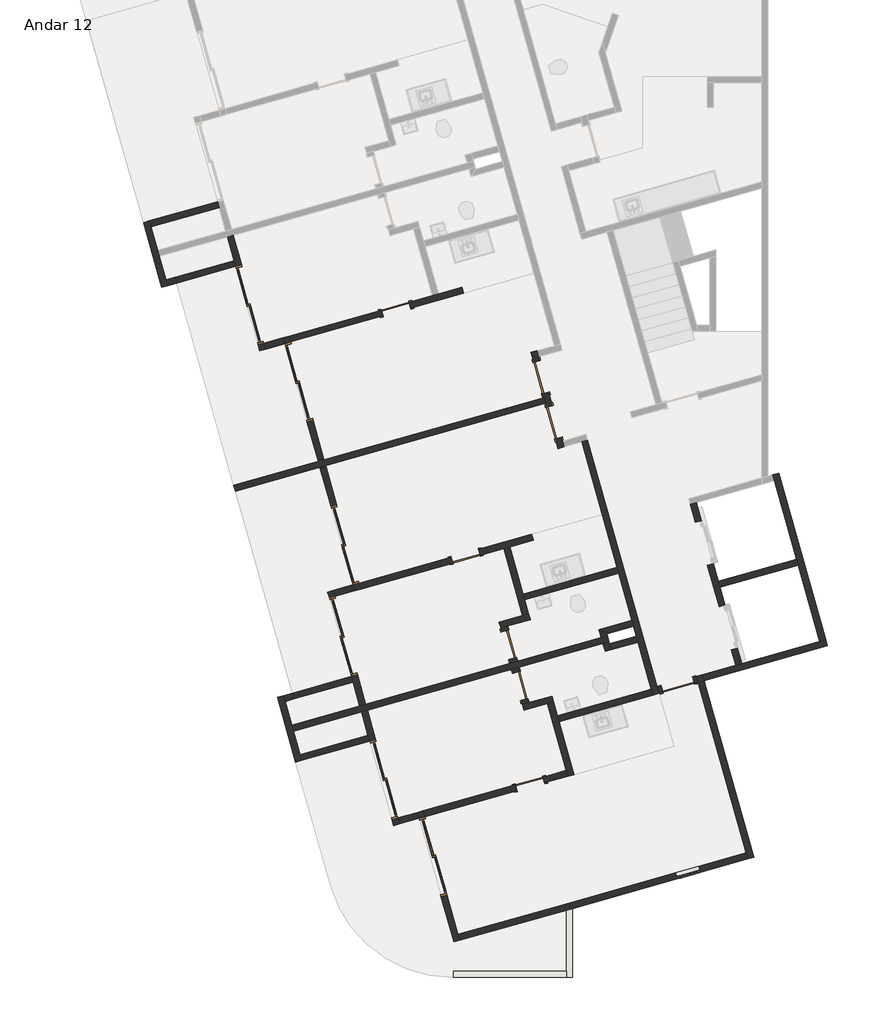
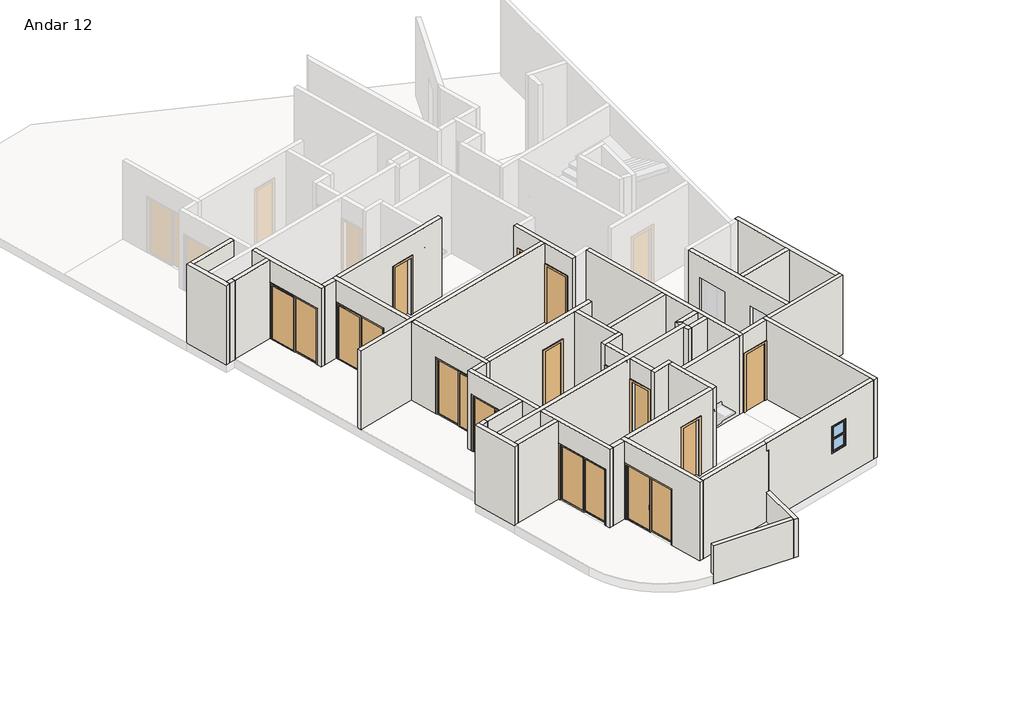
# One storey, part 1 of 3: 46 walls, 14 doors, 1 window.
"""IFC4 building model written with IfcOpenShell, lengths in millimetres."""

from ifc_helpers import new_model, si_unit, frame, origin, place, context, project, spatial, polyline, outline, extrude, faceted_brep, transform, mapped, element, save
from components import p2_80cm_9d4be4ef, p2_80cm_083652d6, p3_70cm_ef4d15e3, p3_70cm_0a698c7c, p4_correr_200cm_eaaa0877, p4_correr_200cm_830b8f20, bx_60cm_cef95a5c

model = new_model("IFC4")

# Units and contexts
model_context = context("Model", 3, world=origin())
ifc_project = project(units=[si_unit("LENGTHUNIT", "METRE", prefix="MILLI")], contexts=[model_context])

# Site, building, storey
site = spatial("IfcSite", under=ifc_project)
building = spatial("IfcBuilding", under=site)
storey = spatial("IfcBuildingStorey", under=building, Name="Andar 12", Elevation=85550.0)

# Doors
placement = place(None, origin())
p2_80cm_shape = p2_80cm_9d4be4ef(model_context)
element("IfcDoor", 1, ObjectType="M_Folha única1 : P2 - 80CM", at=placement, inside=storey, context=model_context, shape_type="MappedRepresentation", body=[
    mapped(p2_80cm_shape, transform((-80566.3456776, 19693.5423602, 85550.0), x_axis=(0.2717679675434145, -0.9623628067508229, 0.0), y_axis=(0.9623628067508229, 0.2717679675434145, 0.0), z_axis=(0.0, 0.0, 1.0))),
])
element("IfcDoor", 2, ObjectType="M_Folha única1 : P2 - 80CM", at=placement, inside=storey, context=model_context, shape_type="MappedRepresentation", body=[
    mapped(p2_80cm_shape, transform((-77213.6668366, 12144.847648, 85550.0), x_axis=(0.9623628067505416, 0.2717679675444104, 0.0), y_axis=(-0.2717679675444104, 0.9623628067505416, 0.0), z_axis=(0.0, 0.0, 1.0))),
])
p2_80cm_2_shape = p2_80cm_083652d6(model_context)
element("IfcDoor", 3, ObjectType="M_Folha única1 : P2 - 80CM", at=placement, inside=storey, context=model_context, shape_type="MappedRepresentation", body=[
    mapped(p2_80cm_2_shape, transform((-80253.8125149, 18586.8251325, 85550.0), x_axis=(-0.2717679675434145, 0.9623628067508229, 0.0), y_axis=(-0.9623628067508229, -0.2717679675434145, 0.0), z_axis=(0.0, 0.0, 1.0))),
])
p3_70cm_shape = p3_70cm_ef4d15e3(model_context)
element("IfcDoor", 4, ObjectType="M_Folha única1 : P3 - 70CM", at=placement, inside=storey, context=model_context, shape_type="MappedRepresentation", body=[
    mapped(p3_70cm_shape, transform((-84129.1775441, 21363.1168842, 85550.0), x_axis=(0.9623628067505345, 0.27176796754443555, 0.0), y_axis=(-0.27176796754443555, 0.9623628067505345, 0.0), z_axis=(0.0, 0.0, 1.0))),
])
element("IfcDoor", 5, ObjectType="M_Folha única1 : P3 - 70CM", at=placement, inside=storey, context=model_context, shape_type="MappedRepresentation", body=[
    mapped(p3_70cm_shape, transform((-80840.7851368, 9718.5269225, 85550.0), x_axis=(0.9623628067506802, 0.2717679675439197, 0.0), y_axis=(-0.2717679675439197, 0.9623628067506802, 0.0), z_axis=(0.0, 0.0, 1.0))),
])
element("IfcDoor", 6, ObjectType="M_Folha única1 : P3 - 70CM", at=placement, inside=storey, context=model_context, shape_type="MappedRepresentation", body=[
    mapped(p3_70cm_shape, transform((-81362.5862327, 13130.1209218, 85550.0), x_axis=(0.27176796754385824, -0.9623628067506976, 0.0), y_axis=(0.9623628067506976, 0.27176796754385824, 0.0), z_axis=(0.0, 0.0, 1.0))),
])
p3_70cm_2_shape = p3_70cm_0a698c7c(model_context)
element("IfcDoor", 7, ObjectType="M_Folha única1 : P3 - 70CM", at=placement, inside=storey, context=model_context, shape_type="MappedRepresentation", body=[
    mapped(p3_70cm_2_shape, transform((-81077.2298668, 12119.6399747, 85550.0), x_axis=(-0.27176796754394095, 0.9623628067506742, 0.0), y_axis=(-0.9623628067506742, -0.27176796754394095, 0.0), z_axis=(0.0, 0.0, 1.0))),
])
element("IfcDoor", 8, ObjectType="M_Folha única1 : P3 - 70CM", at=placement, inside=storey, context=model_context, shape_type="MappedRepresentation", body=[
    mapped(p3_70cm_2_shape, transform((-82417.0393485, 15300.2312016, 85550.0), x_axis=(0.9623628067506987, 0.2717679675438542, 0.0), y_axis=(-0.2717679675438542, 0.9623628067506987, 0.0), z_axis=(0.0, 0.0, 1.0))),
])
p4_correr_200cm_shape = p4_correr_200cm_eaaa0877(model_context)
element("IfcDoor", 9, ObjectType="Porta de correr dupla envidraçada sem revestimento : P4 - CORRER - 200CM", at=placement, inside=storey, context=model_context, shape_type="MappedRepresentation", body=[
    mapped(p4_correr_200cm_shape, transform((-86511.4049952, 19573.3416554, 85550.0), x_axis=(0.2717679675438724, -0.9623628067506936, 0.0), y_axis=(0.9623628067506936, 0.2717679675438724, 0.0), z_axis=(0.0, 0.0, 1.0))),
])
element("IfcDoor", 10, ObjectType="Porta de correr dupla envidraçada sem revestimento : P4 - CORRER - 200CM", at=placement, inside=storey, context=model_context, shape_type="MappedRepresentation", body=[
    mapped(p4_correr_200cm_shape, transform((-87717.4207223, 21466.8516126, 85550.0), x_axis=(0.2717679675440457, -0.9623628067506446, 0.0), y_axis=(0.9623628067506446, 0.2717679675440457, 0.0), z_axis=(0.0, 0.0, 1.0))),
])
element("IfcDoor", 11, ObjectType="Porta de correr dupla envidraçada sem revestimento : P4 - CORRER - 200CM", at=placement, inside=storey, context=model_context, shape_type="MappedRepresentation", body=[
    mapped(p4_correr_200cm_shape, transform((-84429.028315, 9822.2616509, 85550.0), x_axis=(-0.27176796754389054, 0.9623628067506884, 0.0), y_axis=(-0.9623628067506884, -0.27176796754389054, 0.0), z_axis=(0.0, 0.0, 1.0))),
])
element("IfcDoor", 12, ObjectType="Porta de correr dupla envidraçada sem revestimento : P4 - CORRER - 200CM", at=placement, inside=storey, context=model_context, shape_type="MappedRepresentation", body=[
    mapped(p4_correr_200cm_shape, transform((-83223.012588, 7928.7516937, 85550.0), x_axis=(-0.2717679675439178, 0.9623628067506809, 0.0), y_axis=(-0.9623628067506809, -0.2717679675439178, 0.0), z_axis=(0.0, 0.0, 1.0))),
])
p4_correr_200cm_2_shape = p4_correr_200cm_830b8f20(model_context)
element("IfcDoor", 13, ObjectType="Porta de correr dupla envidraçada sem revestimento : P4 - CORRER - 200CM", at=placement, inside=storey, context=model_context, shape_type="MappedRepresentation", body=[
    mapped(p4_correr_200cm_2_shape, transform((-85383.5679299, 15579.5360073, 85550.0), x_axis=(-0.2717679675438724, 0.9623628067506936, 0.0), y_axis=(-0.9623628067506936, -0.2717679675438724, 0.0), z_axis=(0.0, 0.0, 1.0))),
])
element("IfcDoor", 14, ObjectType="Porta de correr dupla envidraçada sem revestimento : P4 - CORRER - 200CM", at=placement, inside=storey, context=model_context, shape_type="MappedRepresentation", body=[
    mapped(p4_correr_200cm_2_shape, transform((-85420.9813965, 13334.8858955, 85550.0), x_axis=(-0.27176796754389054, 0.9623628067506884, 0.0), y_axis=(-0.9623628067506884, -0.27176796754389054, 0.0), z_axis=(0.0, 0.0, 1.0))),
])

# Walls
element("IfcWall", 15, ObjectType="Básica .15 - Externa", at=placement, inside=storey, context=model_context, shape_type="Brep", body=[
    faceted_brep([(-75344.9919691, 7919.3931149, 85550.0), (-76567.7484146, 12249.3196164, 85550.0), (-76608.5136097, 12393.6740374, 85550.0), (-76608.5136097, 12393.6740374, 88450.0), (-76567.7484146, 12249.3196164, 88450.0), (-75344.9919691, 7919.3931149, 88450.0), (-75489.3463901, 7878.6279198, 85550.0), (-75489.3463901, 7878.6279198, 88450.0), (-75530.1115852, 8022.9823408, 88450.0), (-76712.1028356, 12208.5544213, 88450.0), (-76752.8680308, 12352.9088423, 88450.0), (-76752.8680308, 12352.9088423, 85550.0), (-76712.1028356, 12208.5544213, 85550.0), (-75530.1115852, 8022.9823408, 85550.0)], [[[0, 1, 2, 3, 4, 5]], [[6, 7, 8, 9, 10, 11, 12, 13]], [[2, 1, 0, 6, 13, 12, 11]], [[5, 4, 3, 10, 9, 8, 7]], [[0, 5, 7, 6]], [[3, 2, 11, 10]]]),
])
element("IfcWall", 16, ObjectType="Básica .15 -  Interna", at=placement, inside=storey, context=model_context, shape_type="Brep", body=[
    faceted_brep([(-80529.815701, 19288.21464, 85550.0), (-80502.6389043, 19191.9783593, 85550.0), (-80461.8737092, 19047.6239383, 85550.0), (-80434.6969124, 18951.3876576, 85550.0), (-80434.6969124, 18951.3876576, 87650.0), (-80217.2825384, 18181.4974122, 87650.0), (-80217.2825384, 18181.4974122, 85550.0), (-80149.3405465, 17940.9067105, 85550.0), (-80149.3405465, 17940.9067105, 88450.0), (-80461.8737092, 19047.6239383, 88450.0), (-80502.6389043, 19191.9783593, 88450.0), (-80815.172067, 20298.695587, 88450.0), (-80815.172067, 20298.695587, 85550.0), (-80747.2300751, 20058.1048854, 85550.0), (-80747.2300751, 20058.1048854, 87650.0), (-80529.815701, 19288.21464, 87650.0), (-80290.3424914, 18992.1528527, 87650.0), (-80290.3424914, 18992.1528527, 85550.0), (-80385.46128, 19328.9798351, 85550.0), (-80385.46128, 19328.9798351, 87650.0), (-80602.8756541, 20098.8700805, 87650.0), (-80602.8756541, 20098.8700805, 85550.0), (-80630.0524508, 20195.1063612, 85550.0), (-80670.817646, 20339.4607822, 85550.0), (-80670.817646, 20339.4607822, 88450.0), (-80630.0524508, 20195.1063612, 88450.0), (-80045.7513206, 18126.0263266, 88450.0), (-80004.9861255, 17981.6719056, 88450.0), (-80004.9861255, 17981.6719056, 85550.0), (-80045.7513206, 18126.0263266, 85550.0), (-80072.9281174, 18222.2626073, 85550.0), (-80072.9281174, 18222.2626073, 87650.0)], [[[0, 1, 2, 3, 4, 5, 6, 7, 8, 9, 10, 11, 12, 13, 14, 15]], [[16, 17, 18, 19, 20, 21, 22, 23, 24, 25, 26, 27, 28, 29, 30, 31]], [[13, 12, 23, 22, 21]], [[18, 17, 3, 2, 1, 0]], [[30, 29, 28, 7, 6]], [[11, 10, 9, 8, 27, 26, 25, 24]], [[12, 11, 24, 23]], [[8, 7, 28, 27]], [[19, 18, 0, 15]], [[20, 19, 15, 14]], [[21, 20, 14, 13]], [[4, 3, 17, 16]], [[5, 4, 16, 31]], [[6, 5, 31, 30]]]),
])
element("IfcWall", 17, ObjectType="Básica .15 -  Interna", at=placement, inside=storey, context=model_context, shape_type="Brep", body=[
    faceted_brep([(-79571.9228624, 18103.967491, 85550.0), (-78702.2653663, 15024.4065094, 85550.0), (-78661.5001712, 14880.0520884, 85550.0), (-78335.3786101, 13725.2167203, 85550.0), (-78294.613415, 13580.8622993, 85550.0), (-78226.6714231, 13340.2715976, 85550.0), (-78185.906228, 13195.9171766, 85550.0), (-77818.8200634, 11896.0212586, 85550.0), (-77818.8200634, 11896.0212586, 88450.0), (-78185.906228, 13195.9171766, 88450.0), (-78226.6714231, 13340.2715976, 88450.0), (-78294.613415, 13580.8622993, 88450.0), (-78335.3786101, 13725.2167203, 88450.0), (-78661.5001712, 14880.0520884, 88450.0), (-78702.2653663, 15024.4065094, 88450.0), (-79571.9228624, 18103.967491, 88450.0), (-79427.5684414, 18144.7326862, 85550.0), (-79427.5684414, 18144.7326862, 88450.0), (-77715.2308375, 12081.1408747, 88450.0), (-77674.4656424, 11936.7864537, 88450.0), (-77674.4656424, 11936.7864537, 85550.0), (-77715.2308375, 12081.1408747, 85550.0)], [[[0, 1, 2, 3, 4, 5, 6, 7, 8, 9, 10, 11, 12, 13, 14, 15]], [[16, 17, 18, 19, 20, 21]], [[7, 6, 5, 4, 3, 2, 1, 0, 16, 21, 20]], [[15, 14, 13, 12, 11, 10, 9, 8, 19, 18, 17]], [[0, 15, 17, 16]], [[8, 7, 20, 19]]]),
])
element("IfcWall", 18, ObjectType="Básica .15 -  Interna", at=placement, inside=storey, context=model_context, shape_type="Brep", body=[
    faceted_brep([(-85017.5646639, 11630.3683862, 88450.0), (-85180.6254444, 12207.7860702, 88450.0), (-85221.3906395, 12352.1404912, 88450.0), (-85805.6917697, 14421.2205257, 88450.0), (-85805.6917697, 14421.2205257, 85550.0), (-85764.9265746, 14276.8661047, 85550.0), (-85764.9265746, 14276.8661047, 87650.0), (-85221.3906395, 12352.1404912, 87650.0), (-85221.3906395, 12352.1404912, 85550.0), (-85180.6254444, 12207.7860702, 85550.0), (-85017.5646639, 11630.3683862, 85550.0), (-85661.3373487, 14461.9857209, 88450.0), (-85620.5721536, 14317.6312998, 88450.0), (-84873.2102428, 11671.1335813, 88450.0), (-84873.2102428, 11671.1335813, 85550.0), (-85077.0362185, 12392.9056863, 85550.0), (-85077.0362185, 12392.9056863, 87650.0), (-85620.5721536, 14317.6312998, 87650.0), (-85620.5721536, 14317.6312998, 85550.0), (-85661.3373487, 14461.9857209, 85550.0)], [[[0, 1, 2, 3, 4, 5, 6, 7, 8, 9, 10]], [[11, 12, 13, 14, 15, 16, 17, 18, 19]], [[4, 19, 18, 5]], [[14, 10, 9, 8, 15]], [[3, 2, 1, 0, 13, 12, 11]], [[4, 3, 11, 19]], [[0, 10, 14, 13]], [[17, 6, 5, 18]], [[6, 17, 16, 7]], [[7, 16, 15, 8]]]),
])
element("IfcWall", 19, ObjectType="Básica .15 -  Interna", at=placement, inside=storey, context=model_context, shape_type="Brep", body=[
    faceted_brep([(-82710.8886682, 5839.2890616, 88450.0), (-83566.957766, 8870.7319029, 88450.0), (-83607.7229611, 9015.0863239, 88450.0), (-83607.7229611, 9015.0863239, 85550.0), (-83566.957766, 8870.7319029, 85550.0), (-83566.957766, 8870.7319029, 87650.0), (-83023.4218309, 6946.0062894, 87650.0), (-83023.4218309, 6946.0062894, 85550.0), (-82710.8886682, 5839.2890616, 85550.0), (-83463.3685401, 9055.851519, 88450.0), (-83422.603345, 8911.497098, 88450.0), (-82607.2994424, 6024.4086777, 88450.0), (-82566.5342472, 5880.0542567, 88450.0), (-82566.5342472, 5880.0542567, 85550.0), (-82607.2994424, 6024.4086777, 85550.0), (-82879.0674099, 6986.7714845, 85550.0), (-82879.0674099, 6986.7714845, 87650.0), (-83422.603345, 8911.497098, 87650.0), (-83422.603345, 8911.497098, 85550.0), (-83463.3685401, 9055.851519, 85550.0)], [[[0, 1, 2, 3, 4, 5, 6, 7, 8]], [[9, 10, 11, 12, 13, 14, 15, 16, 17, 18, 19]], [[3, 19, 18, 4]], [[13, 8, 7, 15, 14]], [[2, 1, 0, 12, 11, 10, 9]], [[3, 2, 9, 19]], [[0, 8, 13, 12]], [[17, 5, 4, 18]], [[5, 17, 16, 6]], [[6, 16, 15, 7]]]),
])
element("IfcWall", 20, ObjectType="Básica .15 -  Interna", at=placement, inside=storey, context=model_context, shape_type="Brep", body=[
    faceted_brep([(-86046.8404698, 17652.2925145, 85550.0), (-86046.8404698, 17652.2925145, 88450.0), (-86855.3501733, 20515.3218646, 88450.0), (-86896.1153684, 20659.6762856, 88450.0), (-86896.1153684, 20659.6762856, 85550.0), (-86855.3501733, 20515.3218646, 85550.0), (-86855.3501733, 20515.3218646, 87650.0), (-86311.8142382, 18590.596251, 87650.0), (-86311.8142382, 18590.596251, 85550.0), (-85902.4860488, 17693.0577096, 88450.0), (-85902.4860488, 17693.0577096, 85550.0), (-86167.4598172, 18631.3614462, 85550.0), (-86167.4598172, 18631.3614462, 87650.0), (-86710.9957523, 20556.0870597, 87650.0), (-86710.9957523, 20556.0870597, 85550.0), (-86751.7609474, 20700.4414807, 85550.0), (-86751.7609474, 20700.4414807, 88450.0), (-86710.9957523, 20556.0870597, 88450.0)], [[[0, 1, 2, 3, 4, 5, 6, 7, 8]], [[9, 10, 11, 12, 13, 14, 15, 16, 17]], [[10, 0, 8, 11]], [[4, 15, 14, 5]], [[1, 0, 10, 9]], [[3, 2, 1, 9, 17, 16]], [[4, 3, 16, 15]], [[7, 12, 11, 8]], [[12, 7, 6, 13]], [[13, 6, 5, 14]]]),
])
element("IfcWall", 21, ObjectType="Básica .15 - Externa", at=placement, inside=storey, context=model_context, shape_type="Brep", body=[
    faceted_brep([(-79945.4990038, 6620.2256515, 86650.0), (-79945.4990038, 6620.2256515, 85550.0), (-79945.4990038, 6620.2256515, 85250.0), (-79945.4990038, 5119.4122055, 85250.0), (-79945.4990038, 4969.4122055, 85250.0), (-79945.4990038, 4969.4122055, 86650.0), (-79945.4990038, 5119.4122055, 86650.0), (-79795.4990038, 6662.5851389, 85250.0), (-79795.4990038, 6662.5851389, 86650.0), (-79795.4990038, 4969.4122055, 86650.0), (-79795.4990038, 4969.4122055, 85250.0), (-79850.1164062, 6647.1613711, 85250.0)], [[[0, 1, 2, 3, 4, 5, 6]], [[7, 8, 9, 10]], [[4, 3, 2, 11, 7, 10]], [[0, 6, 5, 9, 8]], [[5, 4, 10, 9]], [[0, 8, 7, 11, 2, 1]]]),
])
element("IfcWall", 22, ObjectType="Básica .15 - Externa", at=placement, inside=storey, context=model_context, shape_type="SweptSolid", body=[
    extrude(outline(polyline([(-82713.5540687, 5119.4122055), (-79945.4990038, 5119.4122055), (-79945.4990038, 4969.4122055), (-82713.5540687, 4969.4122055), (-82713.5540687, 5119.4122055)])), frame((0.0, 0.0, 85250.0), z_axis=(0.0, 0.0, 1.0), x_axis=(1.0, 0.0, 0.0)), (0.0, 0.0, 1.0), 1400.0),
])
element("IfcWall", 23, ObjectType="Básica .15 - Externa", at=placement, inside=storey, context=model_context, shape_type="Brep", body=[
    faceted_brep([(-73581.8825825, 13248.3842954, 85550.0), (-73726.2370035, 13207.6191002, 85550.0), (-75646.150803, 12665.442005, 85550.0), (-75790.505224, 12624.6768098, 85550.0), (-76608.5136097, 12393.6740374, 85550.0), (-76608.5136097, 12393.6740374, 88450.0), (-75790.505224, 12624.6768098, 88450.0), (-75646.150803, 12665.442005, 88450.0), (-73726.2370035, 13207.6191002, 88450.0), (-73581.8825825, 13248.3842954, 88450.0), (-73541.1173874, 13104.0298743, 85550.0), (-73541.1173874, 13104.0298743, 88450.0), (-76567.7484146, 12249.3196164, 88450.0), (-76567.7484146, 12249.3196164, 85550.0)], [[[0, 1, 2, 3, 4, 5, 6, 7, 8, 9]], [[10, 11, 12, 13]], [[4, 3, 2, 1, 0, 10, 13]], [[9, 8, 7, 6, 5, 12, 11]], [[0, 9, 11, 10]], [[5, 4, 13, 12]]]),
])
element("IfcWall", 24, ObjectType="Básica .15 - Externa", at=placement, inside=storey, context=model_context, shape_type="Brep", body=[
    faceted_brep([(-74881.2508656, 17297.6610289, 85550.0), (-74840.4856705, 17153.3066079, 85550.0), (-74296.9497354, 15228.5809944, 85550.0), (-74256.1845402, 15084.2265734, 85550.0), (-73726.2370035, 13207.6191002, 85550.0), (-73726.2370035, 13207.6191002, 88450.0), (-74256.1845402, 15084.2265734, 88450.0), (-74296.9497354, 15228.5809944, 88450.0), (-74840.4856705, 17153.3066079, 88450.0), (-74881.2508656, 17297.6610289, 88450.0), (-74736.8964446, 17338.426224, 85550.0), (-74736.8964446, 17338.426224, 88450.0), (-73581.8825825, 13248.3842954, 88450.0), (-73581.8825825, 13248.3842954, 85550.0)], [[[0, 1, 2, 3, 4, 5, 6, 7, 8, 9]], [[10, 11, 12, 13]], [[4, 3, 2, 1, 0, 10, 13]], [[9, 8, 7, 6, 5, 12, 11]], [[0, 9, 11, 10]], [[5, 4, 13, 12]]]),
])
element("IfcWall", 25, ObjectType="Básica .15 -  Interna", at=placement, inside=storey, context=model_context, shape_type="Brep", body=[
    faceted_brep([(-76483.167581, 15077.4768805, 85550.0), (-76197.8112151, 14066.9959334, 85550.0), (-76197.8112151, 14066.9959334, 87675.0), (-75898.8664508, 13008.396846, 87675.0), (-75898.8664508, 13008.396846, 85550.0), (-75790.505224, 12624.6768098, 85550.0), (-75790.505224, 12624.6768098, 88450.0), (-76904.7538909, 16570.3643175, 88450.0), (-76904.7538909, 16570.3643175, 85550.0), (-76782.1123453, 16136.075968, 85550.0), (-76782.1123453, 16136.075968, 87675.0), (-76483.167581, 15077.4768805, 87675.0), (-76053.4567941, 14107.7611286, 87675.0), (-76053.4567941, 14107.7611286, 85550.0), (-76176.0983397, 14542.0494781, 85550.0), (-76216.8635348, 14686.4038991, 85550.0), (-76338.81316, 15118.2420757, 85550.0), (-76338.81316, 15118.2420757, 87675.0), (-76637.7579243, 16176.8411631, 87675.0), (-76637.7579243, 16176.8411631, 85550.0), (-76760.3994699, 16611.1295126, 85550.0), (-76760.3994699, 16611.1295126, 88450.0), (-76216.8635348, 14686.4038991, 88450.0), (-76176.0983397, 14542.0494781, 88450.0), (-75646.150803, 12665.442005, 88450.0), (-75646.150803, 12665.442005, 85550.0), (-75754.5120298, 13049.1620412, 85550.0), (-75754.5120298, 13049.1620412, 87675.0)], [[[0, 1, 2, 3, 4, 5, 6, 7, 8, 9, 10, 11]], [[12, 13, 14, 15, 16, 17, 18, 19, 20, 21, 22, 23, 24, 25, 26, 27]], [[9, 8, 20, 19]], [[26, 25, 5, 4]], [[16, 15, 14, 13, 1, 0]], [[7, 6, 24, 23, 22, 21]], [[8, 7, 21, 20]], [[6, 5, 25, 24]], [[4, 3, 27, 26]], [[2, 1, 13, 12]], [[3, 2, 12, 27]], [[19, 18, 10, 9]], [[17, 16, 0, 11]], [[18, 17, 11, 10]]]),
])
element("IfcWall", 26, ObjectType="Básica .15 -  Interna", at=placement, inside=storey, context=model_context, shape_type="SweptSolid", body=[
    extrude(outline(polyline([(-74256.1845402, 15084.2265734), (-76176.0983397, 14542.0494781), (-76216.8635348, 14686.4038991), (-74296.9497354, 15228.5809944), (-74256.1845402, 15084.2265734)])), frame((0.0, 0.0, 85550.0), z_axis=(0.0, 0.0, 1.0), x_axis=(1.0, 0.0, 0.0)), (0.0, 0.0, 1.0), 2900.0),
])
element("IfcWall", 27, ObjectType="Básica .15 -  Interna", at=placement, inside=storey, context=model_context, shape_type="Brep", body=[
    faceted_brep([(-82566.5342472, 5880.0542567, 85550.0), (-79945.4990038, 6620.2256515, 85550.0), (-79850.1164062, 6647.1613711, 85550.0), (-79850.1164062, 6647.1613711, 88150.0), (-79945.4990038, 6620.2256515, 88150.0), (-79945.4990038, 6620.2256515, 88450.0), (-82566.5342472, 5880.0542567, 88450.0), (-82607.2994424, 6024.4086777, 85550.0), (-82607.2994424, 6024.4086777, 88450.0), (-79945.4990038, 6776.0920243, 88450.0), (-79945.4990038, 6776.0920243, 88150.0), (-79890.8816014, 6791.5157921, 88150.0), (-79890.8816014, 6791.5157921, 85550.0), (-79945.4990038, 6776.0920243, 85550.0)], [[[0, 1, 2, 3, 4, 5, 6]], [[7, 8, 9, 10, 11, 12, 13]], [[2, 1, 0, 7, 13, 12]], [[6, 5, 9, 8]], [[0, 6, 8, 7]], [[2, 12, 11, 3]], [[10, 4, 3, 11]], [[5, 4, 10, 9]]]),
])
element("IfcWall", 28, ObjectType="Básica .15 -  Interna", at=placement, inside=storey, context=model_context, shape_type="Brep", body=[
    faceted_brep([(-85221.3906395, 12352.1404912, 85550.0), (-86668.7560772, 11943.4094383, 85550.0), (-86668.7560772, 11943.4094383, 88450.0), (-85221.3906395, 12352.1404912, 88450.0), (-85221.3906395, 12352.1404912, 87650.0), (-85180.6254444, 12207.7860702, 85550.0), (-85180.6254444, 12207.7860702, 88450.0), (-86627.9908821, 11799.0550173, 88450.0), (-86627.9908821, 11799.0550173, 85550.0)], [[[0, 1, 2, 3, 4]], [[5, 6, 7, 8]], [[1, 0, 5, 8]], [[2, 1, 8, 7]], [[3, 2, 7, 6]], [[0, 4, 3, 6, 5]]]),
])
element("IfcWall", 29, ObjectType="Básica .15 - Externa", at=placement, inside=storey, context=model_context, shape_type="Brep", body=[
    faceted_brep([(-86444.4738537, 10292.215871, 85550.0), (-86485.2390488, 10436.570292, 85550.0), (-86648.2998293, 11013.987976, 85550.0), (-86689.0650245, 11158.342397, 85550.0), (-86852.125805, 11735.7600811, 85550.0), (-86892.8910001, 11880.1145021, 85550.0), (-86892.8910001, 11880.1145021, 88450.0), (-86852.125805, 11735.7600811, 88450.0), (-86689.0650245, 11158.342397, 88450.0), (-86648.2998293, 11013.987976, 88450.0), (-86485.2390488, 10436.570292, 88450.0), (-86444.4738537, 10292.215871, 88450.0), (-86588.8282747, 10251.4506758, 85550.0), (-86588.8282747, 10251.4506758, 88450.0), (-87037.2454211, 11839.349307, 88450.0), (-87037.2454211, 11839.349307, 85550.0)], [[[0, 1, 2, 3, 4, 5, 6, 7, 8, 9, 10, 11]], [[12, 13, 14, 15]], [[5, 4, 3, 2, 1, 0, 12, 15]], [[11, 10, 9, 8, 7, 6, 14, 13]], [[6, 5, 15, 14]], [[0, 11, 13, 12]]]),
])
element("IfcWall", 30, ObjectType="Básica .15 -  Interna", at=placement, inside=storey, context=model_context, shape_type="Brep", body=[
    faceted_brep([(-86444.4738537, 10292.215871, 85550.0), (-84772.9734931, 10764.2418601, 85550.0), (-84772.9734931, 10764.2418601, 87650.0), (-84772.9734931, 10764.2418601, 88450.0), (-86444.4738537, 10292.215871, 88450.0), (-86485.2390488, 10436.570292, 85550.0), (-86485.2390488, 10436.570292, 88450.0), (-84813.7386882, 10908.5962811, 88450.0), (-84813.7386882, 10908.5962811, 85550.0)], [[[0, 1, 2, 3, 4]], [[5, 6, 7, 8]], [[1, 0, 5, 8]], [[4, 3, 7, 6]], [[0, 4, 6, 5]], [[3, 2, 1, 8, 7]]]),
])
element("IfcWall", 31, ObjectType="Básica .15 - Externa", at=placement, inside=storey, context=model_context, shape_type="Brep", body=[
    faceted_brep([(-89732.866261, 21936.8058326, 85550.0), (-89773.6314561, 22081.1602536, 85550.0), (-89936.6922366, 22658.5779377, 85550.0), (-89977.4574318, 22802.9323587, 85550.0), (-90140.5182123, 23380.3500428, 85550.0), (-90181.2834074, 23524.7044638, 85550.0), (-90181.2834074, 23524.7044638, 88450.0), (-90140.5182123, 23380.3500428, 88450.0), (-89977.4574318, 22802.9323587, 88450.0), (-89936.6922366, 22658.5779377, 88450.0), (-89773.6314561, 22081.1602536, 88450.0), (-89732.866261, 21936.8058326, 88450.0), (-89877.220682, 21896.0406375, 85550.0), (-89877.220682, 21896.0406375, 88450.0), (-90325.6378284, 23483.9392686, 88450.0), (-90325.6378284, 23483.9392686, 85550.0)], [[[0, 1, 2, 3, 4, 5, 6, 7, 8, 9, 10, 11]], [[12, 13, 14, 15]], [[5, 4, 3, 2, 1, 0, 12, 15]], [[11, 10, 9, 8, 7, 6, 14, 13]], [[0, 11, 13, 12]], [[6, 5, 15, 14]]]),
])
element("IfcWall", 32, ObjectType="Básica .15 -  Interna", at=placement, inside=storey, context=model_context, shape_type="Brep", body=[
    faceted_brep([(-88102.1310955, 22553.1862428, 85550.0), (-89549.4965332, 22144.4551899, 85550.0), (-89549.4965332, 22144.4551899, 88450.0), (-88102.1310955, 22553.1862428, 88450.0), (-88061.3659003, 22408.8318218, 85550.0), (-88061.3659003, 22408.8318218, 87650.0), (-88061.3659003, 22408.8318218, 88450.0), (-89508.731338, 22000.1007688, 88450.0), (-89508.731338, 22000.1007688, 85550.0)], [[[0, 1, 2, 3]], [[4, 5, 6, 7, 8]], [[1, 0, 4, 8]], [[2, 1, 8, 7]], [[3, 2, 7, 6]], [[0, 3, 6, 5, 4]]]),
])
element("IfcWall", 33, ObjectType="Básica .15 -  Interna", at=placement, inside=storey, context=model_context, shape_type="Brep", body=[
    faceted_brep([(-90140.5182123, 23380.3500428, 85550.0), (-88469.0178517, 23852.3760319, 85550.0), (-88469.0178517, 23852.3760319, 88450.0), (-90140.5182123, 23380.3500428, 88450.0), (-90181.2834074, 23524.7044638, 85550.0), (-90181.2834074, 23524.7044638, 88450.0), (-88509.7830468, 23996.7304529, 88450.0), (-88509.7830468, 23996.7304529, 87650.0), (-88509.7830468, 23996.7304529, 85550.0)], [[[0, 1, 2, 3]], [[4, 5, 6, 7, 8]], [[1, 0, 4, 8]], [[3, 2, 6, 5]], [[0, 3, 5, 4]], [[2, 1, 8, 7, 6]]]),
])
element("IfcWall", 34, ObjectType="Básica .15 -  Interna", at=placement, inside=storey, context=model_context, shape_type="Brep", body=[
    faceted_brep([(-86896.1153684, 20659.6762856, 85550.0), (-87373.4755442, 20524.8714034, 85550.0), (-87373.4755442, 20524.8714034, 87650.0), (-87373.4755442, 20524.8714034, 88450.0), (-86896.1153684, 20659.6762856, 88450.0), (-86855.3501733, 20515.3218646, 85550.0), (-86855.3501733, 20515.3218646, 87650.0), (-86855.3501733, 20515.3218646, 88450.0), (-87332.7103491, 20380.5169824, 88450.0), (-87332.7103491, 20380.5169824, 85550.0)], [[[0, 1, 2, 3, 4]], [[5, 6, 7, 8, 9]], [[1, 0, 5, 9]], [[4, 3, 8, 7]], [[0, 4, 7, 6, 5]], [[3, 2, 1, 9, 8]]]),
])
element("IfcWall", 35, ObjectType="Básica .15 -  Interna", at=placement, inside=storey, context=model_context, shape_type="Brep", body=[
    faceted_brep([(-83607.7229611, 9015.0863239, 85550.0), (-84085.083137, 8880.2814417, 85550.0), (-84085.083137, 8880.2814417, 87650.0), (-84085.083137, 8880.2814417, 88450.0), (-83607.7229611, 9015.0863239, 88450.0), (-83566.957766, 8870.7319029, 85550.0), (-83566.957766, 8870.7319029, 87650.0), (-83566.957766, 8870.7319029, 88450.0), (-84044.3179418, 8735.9270207, 88450.0), (-84044.3179418, 8735.9270207, 85550.0)], [[[0, 1, 2, 3, 4]], [[5, 6, 7, 8, 9]], [[1, 0, 5, 9]], [[4, 3, 8, 7]], [[3, 2, 1, 9, 8]], [[0, 4, 7, 6, 5]]]),
])
element("IfcWall", 36, ObjectType="Básica .15 -  Interna", at=placement, inside=storey, context=model_context, shape_type="Brep", body=[
    faceted_brep([(-85183.9771729, 14596.790603, 85550.0), (-85661.3373487, 14461.9857209, 85550.0), (-85661.3373487, 14461.9857209, 88450.0), (-85183.9771729, 14596.790603, 88450.0), (-85183.9771729, 14596.790603, 87650.0), (-85143.2119778, 14452.436182, 85550.0), (-85143.2119778, 14452.436182, 88450.0), (-85620.5721536, 14317.6312998, 88450.0), (-85620.5721536, 14317.6312998, 87650.0), (-85620.5721536, 14317.6312998, 85550.0)], [[[0, 1, 2, 3, 4]], [[5, 6, 7, 8, 9]], [[1, 0, 5, 9]], [[3, 2, 7, 6]], [[2, 1, 9, 8, 7]], [[0, 4, 3, 6, 5]]]),
])
element("IfcWall", 37, ObjectType="Básica .15 -  Interna", at=placement, inside=storey, context=model_context, shape_type="Brep", body=[
    faceted_brep([(-87477.0647701, 20339.7517872, 88450.0), (-88061.3659003, 22408.8318218, 88450.0), (-88102.1310955, 22553.1862428, 88450.0), (-88265.191876, 23130.6039268, 88450.0), (-88265.191876, 23130.6039268, 85550.0), (-88102.1310955, 22553.1862428, 85550.0), (-88061.3659003, 22408.8318218, 85550.0), (-88061.3659003, 22408.8318218, 87650.0), (-87517.8299653, 20484.1062083, 87650.0), (-87517.8299653, 20484.1062083, 85550.0), (-87477.0647701, 20339.7517872, 85550.0), (-88120.837455, 23171.369122, 88450.0), (-87373.4755442, 20524.8714034, 88450.0), (-87332.7103491, 20380.5169824, 88450.0), (-87332.7103491, 20380.5169824, 85550.0), (-87373.4755442, 20524.8714034, 85550.0), (-87373.4755442, 20524.8714034, 87650.0), (-87917.0114793, 22449.5970169, 87650.0), (-87917.0114793, 22449.5970169, 85550.0), (-88120.837455, 23171.369122, 85550.0)], [[[0, 1, 2, 3, 4, 5, 6, 7, 8, 9, 10]], [[11, 12, 13, 14, 15, 16, 17, 18, 19]], [[14, 10, 9, 15]], [[4, 19, 18, 6, 5]], [[3, 2, 1, 0, 13, 12, 11]], [[0, 10, 14, 13]], [[4, 3, 11, 19]], [[8, 16, 15, 9]], [[16, 8, 7, 17]], [[17, 7, 6, 18]]]),
])
element("IfcWall", 38, ObjectType="Básica .15 -  Interna", at=placement, inside=storey, context=model_context, shape_type="Brep", body=[
    faceted_brep([(-85143.2119778, 14452.436182, 88450.0), (-85183.9771729, 14596.790603, 88450.0), (-85992.4868763, 17459.8199531, 88450.0), (-85992.4868763, 17459.8199531, 85550.0), (-85727.513108, 16521.5162165, 85550.0), (-85727.513108, 16521.5162165, 87650.0), (-85183.9771729, 14596.790603, 87650.0), (-85183.9771729, 14596.790603, 85550.0), (-85143.2119778, 14452.436182, 85550.0), (-85848.1324553, 17500.5851482, 88450.0), (-85039.6227519, 14637.5557982, 88450.0), (-84998.8575568, 14493.2013772, 88450.0), (-84998.8575568, 14493.2013772, 85550.0), (-85039.6227519, 14637.5557982, 85550.0), (-85039.6227519, 14637.5557982, 87650.0), (-85583.158687, 16562.2814117, 87650.0), (-85583.158687, 16562.2814117, 85550.0), (-85848.1324553, 17500.5851482, 85550.0)], [[[0, 1, 2, 3, 4, 5, 6, 7, 8]], [[9, 10, 11, 12, 13, 14, 15, 16, 17]], [[3, 17, 16, 4]], [[12, 8, 7, 13]], [[2, 1, 0, 11, 10, 9]], [[3, 2, 9, 17]], [[0, 8, 12, 11]], [[15, 5, 4, 16]], [[5, 15, 14, 6]], [[6, 14, 13, 7]]]),
])
element("IfcWall", 39, ObjectType="Básica .15 -  Interna", at=placement, inside=storey, context=model_context, shape_type="SweptSolid", body=[
    extrude(outline(polyline([(-80461.8737092, 19047.6239383), (-88068.36111, 16899.5778931), (-88109.1263052, 17043.9323141), (-80502.6389043, 19191.9783593), (-80461.8737092, 19047.6239383)])), frame((0.0, 0.0, 85550.0), z_axis=(0.0, 0.0, 1.0), x_axis=(1.0, 0.0, 0.0)), (0.0, 0.0, 1.0), 2900.0),
])
element("IfcWall", 40, ObjectType="Básica .15 -  Interna", at=placement, inside=storey, context=model_context, shape_type="Brep", body=[
    faceted_brep([(-78945.0553533, 13345.2242614, 85550.0), (-81168.1134369, 12717.4402563, 85550.0), (-81312.4678579, 12676.6750612, 85550.0), (-84873.2102428, 11671.1335813, 85550.0), (-85017.5646639, 11630.3683862, 85550.0), (-86689.0650245, 11158.342397, 85550.0), (-86689.0650245, 11158.342397, 88450.0), (-85017.5646639, 11630.3683862, 88450.0), (-84873.2102428, 11671.1335813, 88450.0), (-81312.4678579, 12676.6750612, 88450.0), (-81168.1134369, 12717.4402563, 88450.0), (-78945.0553533, 13345.2242614, 88450.0), (-78904.2901581, 13200.8698403, 85550.0), (-78904.2901581, 13200.8698403, 88450.0), (-81127.3482417, 12573.0858353, 88450.0), (-81271.7026627, 12532.3206402, 88450.0), (-84832.4450477, 11526.7791603, 88450.0), (-84976.7994687, 11486.0139651, 88450.0), (-86648.2998293, 11013.987976, 88450.0), (-86648.2998293, 11013.987976, 85550.0), (-84976.7994687, 11486.0139651, 85550.0), (-84832.4450477, 11526.7791603, 85550.0), (-81271.7026627, 12532.3206402, 85550.0), (-81127.3482417, 12573.0858353, 85550.0)], [[[0, 1, 2, 3, 4, 5, 6, 7, 8, 9, 10, 11]], [[12, 13, 14, 15, 16, 17, 18, 19, 20, 21, 22, 23]], [[5, 4, 3, 2, 1, 0, 12, 23, 22, 21, 20, 19]], [[11, 10, 9, 8, 7, 6, 18, 17, 16, 15, 14, 13]], [[0, 11, 13, 12]], [[6, 5, 19, 18]]]),
])
element("IfcWall", 41, ObjectType="Básica .15 -  Interna", at=placement, inside=storey, context=model_context, shape_type="Brep", body=[
    faceted_brep([(-84188.6723628, 8695.1618256, 88450.0), (-84772.9734931, 10764.2418601, 88450.0), (-84813.7386882, 10908.5962811, 88450.0), (-84976.7994687, 11486.0139651, 88450.0), (-84976.7994687, 11486.0139651, 85550.0), (-84813.7386882, 10908.5962811, 85550.0), (-84772.9734931, 10764.2418601, 85550.0), (-84772.9734931, 10764.2418601, 87650.0), (-84229.437558, 8839.5162466, 87650.0), (-84229.437558, 8839.5162466, 85550.0), (-84188.6723628, 8695.1618256, 85550.0), (-84832.4450477, 11526.7791603, 88450.0), (-84085.083137, 8880.2814417, 88450.0), (-84044.3179418, 8735.9270207, 88450.0), (-84044.3179418, 8735.9270207, 85550.0), (-84085.083137, 8880.2814417, 85550.0), (-84085.083137, 8880.2814417, 87650.0), (-84628.6190721, 10805.0070552, 87650.0), (-84628.6190721, 10805.0070552, 85550.0), (-84832.4450477, 11526.7791603, 85550.0)], [[[0, 1, 2, 3, 4, 5, 6, 7, 8, 9, 10]], [[11, 12, 13, 14, 15, 16, 17, 18, 19]], [[14, 10, 9, 15]], [[4, 19, 18, 6, 5]], [[3, 2, 1, 0, 13, 12, 11]], [[0, 10, 14, 13]], [[4, 3, 11, 19]], [[17, 7, 6, 18]], [[7, 17, 16, 8]], [[8, 16, 15, 9]]]),
])
element("IfcWall", 42, ObjectType="Básica .15 - Externa", at=placement, inside=storey, context=model_context, shape_type="Brep", body=[
    faceted_brep([(-79850.1164062, 6647.1613711, 88150.0), (-79850.1164062, 6647.1613711, 85550.0), (-75489.3463901, 7878.6279198, 85550.0), (-75489.3463901, 7878.6279198, 88450.0), (-79850.1164062, 6647.1613711, 88450.0), (-79945.4990038, 6620.2256515, 88450.0), (-79945.4990038, 6620.2256515, 88150.0), (-76649.6431667, 7550.9640756, 86650.0), (-77227.0608508, 7387.9032951, 86650.0), (-77227.0608508, 7387.9032951, 87650.0), (-76649.6431667, 7550.9640756, 87650.0), (-79890.8816014, 6791.5157921, 85550.0), (-79890.8816014, 6791.5157921, 88150.0), (-79945.4990038, 6776.0920243, 88150.0), (-79945.4990038, 6776.0920243, 88450.0), (-79890.8816014, 6791.5157921, 88450.0), (-75530.1115852, 8022.9823408, 88450.0), (-75530.1115852, 8022.9823408, 85550.0), (-76690.4083619, 7695.3184966, 86650.0), (-76690.4083619, 7695.3184966, 87650.0), (-77267.8260459, 7532.2577161, 87650.0), (-77267.8260459, 7532.2577161, 86650.0)], [[[0, 1, 2, 3, 4, 5, 6], [7, 8, 9, 10]], [[11, 12, 13, 14, 15, 16, 17], [18, 19, 20, 21]], [[2, 1, 11, 17]], [[5, 4, 3, 16, 15, 14]], [[18, 21, 8, 7]], [[21, 20, 9, 8]], [[20, 19, 10, 9]], [[19, 18, 7, 10]], [[3, 2, 17, 16]], [[0, 12, 11, 1]], [[6, 13, 12, 0]], [[6, 5, 14, 13]]]),
])
element("IfcWall", 43, ObjectType="Básica .15 - Externa", at=placement, inside=storey, context=model_context, shape_type="SweptSolid", body=[
    extrude(outline(polyline([(-89773.6314561, 22081.1602536), (-89549.4965332, 22144.4551899), (-89508.731338, 22000.1007688), (-89732.866261, 21936.8058326), (-89773.6314561, 22081.1602536)])), frame((0.0, 0.0, 85550.0), z_axis=(0.0, 0.0, 1.0), x_axis=(1.0, 0.0, 0.0)), (0.0, 0.0, 1.0), 2900.0),
])
element("IfcWall", 44, ObjectType="Básica .15 - Externa", at=placement, inside=storey, context=model_context, shape_type="SweptSolid", body=[
    extrude(outline(polyline([(-86892.8910001, 11880.1145021), (-86668.7560772, 11943.4094383), (-86627.9908821, 11799.0550173), (-86852.125805, 11735.7600811), (-86892.8910001, 11880.1145021)])), frame((0.0, 0.0, 85550.0), z_axis=(0.0, 0.0, 1.0), x_axis=(1.0, 0.0, 0.0)), (0.0, 0.0, 1.0), 2900.0),
])
element("IfcWall", 45, ObjectType="Básica .15 -  Interna", at=placement, inside=storey, context=model_context, shape_type="Brep", body=[
    faceted_brep([(-82513.5433702, 21897.2996395, 85550.0), (-83090.9610542, 21734.238859, 85550.0), (-83235.3154752, 21693.4736638, 85550.0), (-83812.7331593, 21530.4128833, 85550.0), (-83812.7331593, 21530.4128833, 87650.0), (-84486.387124, 21340.175306, 87650.0), (-84486.387124, 21340.175306, 85550.0), (-86751.7609474, 20700.4414807, 85550.0), (-86751.7609474, 20700.4414807, 88450.0), (-83235.3154752, 21693.4736638, 88450.0), (-83090.9610542, 21734.238859, 88450.0), (-82513.5433702, 21897.2996395, 88450.0), (-83771.9679641, 21386.0584623, 87650.0), (-83771.9679641, 21386.0584623, 85550.0), (-82472.778175, 21752.9452185, 85550.0), (-82472.778175, 21752.9452185, 88450.0), (-86710.9957523, 20556.0870597, 88450.0), (-86710.9957523, 20556.0870597, 87650.0), (-86710.9957523, 20556.0870597, 85550.0), (-84445.6219289, 21195.820885, 85550.0), (-84445.6219289, 21195.820885, 87650.0)], [[[0, 1, 2, 3, 4, 5, 6, 7, 8, 9, 10, 11]], [[12, 13, 14, 15, 16, 17, 18, 19, 20]], [[19, 18, 7, 6]], [[14, 13, 3, 2, 1, 0]], [[11, 10, 9, 8, 16, 15]], [[0, 11, 15, 14]], [[4, 3, 13, 12]], [[5, 4, 12, 20]], [[6, 5, 20, 19]], [[8, 7, 18, 17, 16]]]),
])
element("IfcWall", 46, ObjectType="Básica .15 -  Interna", at=placement, inside=storey, context=model_context, shape_type="SweptSolid", body=[
    extrude(outline(polyline([(-80169.4554031, 11388.8386864), (-77859.7846669, 12041.0818085), (-77819.0194718, 11896.7273875), (-80128.690208, 11244.4842654), (-80169.4554031, 11388.8386864)])), frame((0.0, 0.0, 85550.0), z_axis=(0.0, 0.0, 1.0), x_axis=(1.0, 0.0, 0.0)), (0.0, 0.0, 1.0), 2900.0),
])
element("IfcWall", 47, ObjectType="Básica .15 -  Interna", at=placement, inside=storey, context=model_context, shape_type="SweptSolid", body=[
    extrude(outline(polyline([(-78185.906228, 13195.9171766), (-78849.9365646, 13008.397279), (-78890.7017597, 13152.7517), (-78226.6714231, 13340.2715976), (-78185.906228, 13195.9171766)])), frame((0.0, 0.0, 85550.0), z_axis=(0.0, 0.0, 1.0), x_axis=(1.0, 0.0, 0.0)), (0.0, 0.0, 1.0), 2900.0),
])
element("IfcWall", 48, ObjectType="Básica .15 -  Interna", at=placement, inside=storey, context=model_context, shape_type="Brep", body=[
    faceted_brep([(-80986.3462968, 11521.8396931, 85550.0), (-80408.9286128, 11684.9004736, 85550.0), (-80264.5741917, 11725.6656688, 85550.0), (-80264.5741917, 11725.6656688, 88450.0), (-80408.9286128, 11684.9004736, 88450.0), (-80986.3462968, 11521.8396931, 88450.0), (-81027.1114919, 11666.1941141, 85550.0), (-81027.1114919, 11666.1941141, 88450.0), (-80882.7570709, 11706.9593092, 88450.0), (-80305.3393869, 11870.0200898, 88450.0), (-80305.3393869, 11870.0200898, 85550.0), (-80882.7570709, 11706.9593092, 85550.0)], [[[0, 1, 2, 3, 4, 5]], [[6, 7, 8, 9, 10, 11]], [[2, 1, 0, 6, 11, 10]], [[5, 4, 3, 9, 8, 7]], [[0, 5, 7, 6]], [[3, 2, 10, 9]]]),
])
element("IfcWall", 49, ObjectType="Básica .15 -  Interna", at=placement, inside=storey, context=model_context, shape_type="SweptSolid", body=[
    extrude(outline(polyline([(900.0, -2900.0), (0.0, -2900.0), (0.0, 0.0), (100.0, 0.0), (100.0, -2100.0), (800.0, -2100.0), (800.0, 0.0), (900.0, 0.0), (900.0, -2900.0)])), frame((-81271.7026627, 12532.3206402, 85550.0), z_axis=(0.9623628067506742, 0.271767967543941, 0.0), x_axis=(0.271767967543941, -0.9623628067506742, 0.0)), (0.0, 0.0, 1.0), 150.0),
])
element("IfcWall", 50, ObjectType="Básica .15 -  Interna", at=placement, inside=storey, context=model_context, shape_type="Brep", body=[
    faceted_brep([(-80408.9286128, 11684.9004736, 85550.0), (-79946.9230679, 10048.8837021, 85550.0), (-79906.1578728, 9904.5292811, 85550.0), (-79906.1578728, 9904.5292811, 88450.0), (-79946.9230679, 10048.8837021, 88450.0), (-80408.9286128, 11684.9004736, 88450.0), (-80264.5741917, 11725.6656688, 85550.0), (-80264.5741917, 11725.6656688, 88450.0), (-80169.4554031, 11388.8386864, 88450.0), (-80128.690208, 11244.4842654, 88450.0), (-79761.8034518, 9945.2944763, 88450.0), (-79761.8034518, 9945.2944763, 85550.0), (-80128.690208, 11244.4842654, 85550.0), (-80169.4554031, 11388.8386864, 85550.0)], [[[0, 1, 2, 3, 4, 5]], [[6, 7, 8, 9, 10, 11, 12, 13]], [[2, 1, 0, 6, 13, 12, 11]], [[5, 4, 3, 10, 9, 8, 7]], [[3, 2, 11, 10]], [[0, 5, 7, 6]]]),
])
element("IfcWall", 51, ObjectType="Básica .15 -  Interna", at=placement, inside=storey, context=model_context, shape_type="Brep", body=[
    faceted_brep([(-79946.9230679, 10048.8837021, 85550.0), (-80524.340752, 9885.8229216, 85550.0), (-80524.340752, 9885.8229216, 87650.0), (-81197.9947167, 9695.5853443, 87650.0), (-81197.9947167, 9695.5853443, 85550.0), (-83463.3685401, 9055.851519, 85550.0), (-83463.3685401, 9055.851519, 88450.0), (-79946.9230679, 10048.8837021, 88450.0), (-80483.5755569, 9741.4685006, 87650.0), (-80483.5755569, 9741.4685006, 85550.0), (-79906.1578728, 9904.5292811, 85550.0), (-79906.1578728, 9904.5292811, 88450.0), (-83422.603345, 8911.497098, 88450.0), (-83422.603345, 8911.497098, 87650.0), (-83422.603345, 8911.497098, 85550.0), (-81157.2295216, 9551.2309233, 85550.0), (-81157.2295216, 9551.2309233, 87650.0)], [[[0, 1, 2, 3, 4, 5, 6, 7]], [[8, 9, 10, 11, 12, 13, 14, 15, 16]], [[15, 14, 5, 4]], [[10, 9, 1, 0]], [[7, 6, 12, 11]], [[2, 1, 9, 8]], [[3, 2, 8, 16]], [[4, 3, 16, 15]], [[0, 7, 11, 10]], [[6, 5, 14, 13, 12]]]),
])
element("IfcWall", 52, ObjectType="Básica .15 -  Interna", at=placement, inside=storey, context=model_context, shape_type="Brep", body=[
    faceted_brep([(-79048.6445791, 13160.1046452, 85550.0), (-78994.2909856, 12967.6320839, 85550.0), (-78994.2909856, 12967.6320839, 88450.0), (-79048.6445791, 13160.1046452, 88450.0), (-78904.2901581, 13200.8698403, 85550.0), (-78904.2901581, 13200.8698403, 88450.0), (-78890.7017597, 13152.7517, 88450.0), (-78849.9365646, 13008.397279, 88450.0), (-78849.9365646, 13008.397279, 85550.0), (-78890.7017597, 13152.7517, 85550.0)], [[[0, 1, 2, 3]], [[4, 5, 6, 7, 8, 9]], [[1, 0, 4, 9, 8]], [[3, 2, 7, 6, 5]], [[0, 3, 5, 4]], [[2, 1, 8, 7]]]),
])
element("IfcWall", 53, ObjectType="Básica .15 -  Interna", at=placement, inside=storey, context=model_context, shape_type="SweptSolid", body=[
    extrude(outline(polyline([(-79143.7633678, 13496.9316276), (-78335.3786101, 13725.2167203), (-78294.613415, 13580.8622993), (-78958.6437516, 13393.3424017), (-79143.7633678, 13496.9316276)])), frame((0.0, 0.0, 85550.0), z_axis=(0.0, 0.0, 1.0), x_axis=(1.0, 0.0, 0.0)), (0.0, 0.0, 1.0), 2900.0),
])
element("IfcWall", 54, ObjectType="Básica .15 -  Interna", at=placement, inside=storey, context=model_context, shape_type="SweptSolid", body=[
    extrude(outline(polyline([(-79089.4097743, 13304.4590662), (-79143.7633678, 13496.9316276), (-78958.6437516, 13393.3424017), (-78945.0553533, 13345.2242614), (-79089.4097743, 13304.4590662)])), frame((0.0, 0.0, 85550.0), z_axis=(0.0, 0.0, 1.0), x_axis=(1.0, 0.0, 0.0)), (0.0, 0.0, 1.0), 2900.0),
])
element("IfcWall", 55, ObjectType="Básica .15 -  Interna", at=placement, inside=storey, context=model_context, shape_type="Brep", body=[
    faceted_brep([(-80876.0521187, 13890.981984, 85550.0), (-81020.4065397, 13850.2167888, 85550.0), (-81597.8242238, 13687.1560083, 85550.0), (-81597.8242238, 13687.1560083, 88450.0), (-81020.4065397, 13850.2167888, 88450.0), (-80876.0521187, 13890.981984, 88450.0), (-80835.2869236, 13746.6275629, 85550.0), (-80835.2869236, 13746.6275629, 88450.0), (-81412.7046076, 13583.5667824, 88450.0), (-81557.0590287, 13542.8015873, 88450.0), (-81557.0590287, 13542.8015873, 85550.0), (-81412.7046076, 13583.5667824, 85550.0)], [[[0, 1, 2, 3, 4, 5]], [[6, 7, 8, 9, 10, 11]], [[2, 1, 0, 6, 11, 10]], [[5, 4, 3, 9, 8, 7]], [[0, 5, 7, 6]], [[3, 2, 10, 9]]]),
])
element("IfcWall", 56, ObjectType="Básica .15 -  Interna", at=placement, inside=storey, context=model_context, shape_type="Brep", body=[
    faceted_brep([(-81482.4120846, 15486.2335603, 85550.0), (-81020.4065397, 13850.2167888, 85550.0), (-81020.4065397, 13850.2167888, 88450.0), (-81482.4120846, 15486.2335603, 88450.0), (-81338.0576635, 15526.9987554, 85550.0), (-81338.0576635, 15526.9987554, 88450.0), (-81011.9361025, 14372.1633873, 88450.0), (-80971.1709074, 14227.8089663, 88450.0), (-80876.0521187, 13890.981984, 88450.0), (-80876.0521187, 13890.981984, 85550.0), (-80971.1709074, 14227.8089663, 85550.0), (-81011.9361025, 14372.1633873, 85550.0)], [[[0, 1, 2, 3]], [[4, 5, 6, 7, 8, 9, 10, 11]], [[1, 0, 4, 11, 10, 9]], [[3, 2, 8, 7, 6, 5]], [[0, 3, 5, 4]], [[2, 1, 9, 8]]]),
])
element("IfcWall", 57, ObjectType="Básica .15 -  Interna", at=placement, inside=storey, context=model_context, shape_type="SweptSolid", body=[
    extrude(outline(polyline([(-81011.9361025, 14372.1633873), (-78702.2653663, 15024.4065094), (-78661.5001712, 14880.0520884), (-80971.1709074, 14227.8089663), (-81011.9361025, 14372.1633873)])), frame((0.0, 0.0, 85550.0), z_axis=(0.0, 0.0, 1.0), x_axis=(1.0, 0.0, 0.0)), (0.0, 0.0, 1.0), 2900.0),
])
element("IfcWall", 58, ObjectType="Básica .15 -  Interna", at=placement, inside=storey, context=model_context, shape_type="Brep", body=[
    faceted_brep([(-80801.4051746, 15834.413957, 85550.0), (-82100.5949637, 15467.5272008, 85550.0), (-82100.5949637, 15467.5272008, 87650.0), (-82774.2489285, 15277.2896235, 87650.0), (-82774.2489285, 15277.2896235, 85550.0), (-85039.6227519, 14637.5557982, 85550.0), (-85039.6227519, 14637.5557982, 87650.0), (-85039.6227519, 14637.5557982, 88450.0), (-80801.4051746, 15834.413957, 88450.0), (-82059.8297686, 15323.1727798, 87650.0), (-82059.8297686, 15323.1727798, 85550.0), (-81482.4120846, 15486.2335603, 85550.0), (-81338.0576635, 15526.9987554, 85550.0), (-80760.6399795, 15690.059536, 85550.0), (-80760.6399795, 15690.059536, 88450.0), (-81338.0576635, 15526.9987554, 88450.0), (-81482.4120846, 15486.2335603, 88450.0), (-84998.8575568, 14493.2013772, 88450.0), (-84998.8575568, 14493.2013772, 85550.0), (-82733.4837333, 15132.9352025, 85550.0), (-82733.4837333, 15132.9352025, 87650.0)], [[[0, 1, 2, 3, 4, 5, 6, 7, 8]], [[9, 10, 11, 12, 13, 14, 15, 16, 17, 18, 19, 20]], [[19, 18, 5, 4]], [[13, 12, 11, 10, 1, 0]], [[8, 7, 17, 16, 15, 14]], [[0, 8, 14, 13]], [[2, 1, 10, 9]], [[3, 2, 9, 20]], [[4, 3, 20, 19]], [[7, 6, 5, 18, 17]]]),
])
element("IfcWall", 59, ObjectType="Básica .15 -  Interna", at=placement, inside=storey, context=model_context, shape_type="SweptSolid", body=[
    extrude(outline(polyline([(-250.0, -2100.0), (-250.0, 0.0), (-150.0, 0.0), (-150.0, -2900.0), (-1050.0, -2900.0), (-1050.0, 0.0), (-950.0, 0.0), (-950.0, -2100.0), (-250.0, -2100.0)])), frame((-81271.7026627, 12532.3206402, 85550.0), z_axis=(0.9623628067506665, 0.2717679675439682, 0.0), x_axis=(0.2717679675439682, -0.9623628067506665, 0.0)), (0.0, 0.0, 1.0), 150.0),
])
element("IfcWall", 60, ObjectType="Básica .15 -  Interna", at=placement, inside=storey, context=model_context, shape_type="SweptSolid", body=[
    extrude(outline(polyline([(-1100.0, -2100.0), (-1100.0, 0.0), (-999.9999999, 0.0), (-999.9999999, -2900.0), (-2000.0, -2900.0), (-2000.0, 0.0), (-1900.0, 0.0), (-1900.0, -2100.0), (-1100.0, -2100.0)])), frame((-75749.7400289, 12480.3223888, 85550.0), z_axis=(-0.2717679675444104, 0.9623628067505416, 0.0), x_axis=(0.9623628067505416, 0.2717679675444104, 0.0)), (0.0, 0.0, 1.0), 150.0),
])

# Window
bx_60cm_shape = bx_60cm_cef95a5c(model_context)
element("IfcWindow", 61, ObjectType="Janela pivotante horizontal - 2 Painéis : BX - 60CM", at=placement, inside=storey, context=model_context, shape_type="MappedRepresentation", body=[
    mapped(bx_60cm_shape, transform((-76958.7346063, 7541.6108959, 86000.0), x_axis=(-0.9623628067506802, -0.27176796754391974, 0.0), y_axis=(0.27176796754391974, -0.9623628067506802, 0.0), z_axis=(0.0, 0.0, 1.0))),
])

save(model, "model.ifc")
